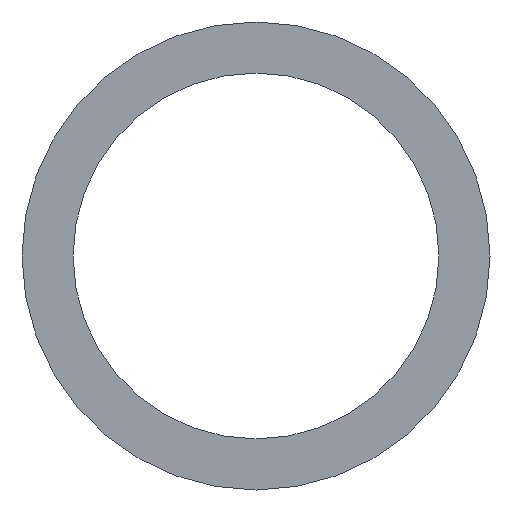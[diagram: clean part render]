
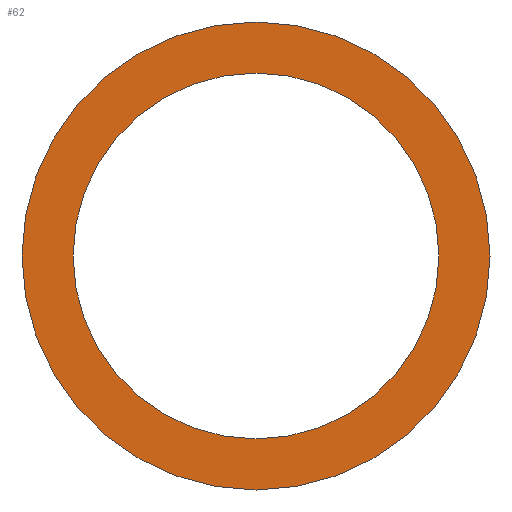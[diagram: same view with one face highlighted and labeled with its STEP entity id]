
A CAD part, front view. The second image highlights one B-rep face of the part: STEP entity #62.
In plain terms, the highlighted planar face has unit normal (0, -1, 0).
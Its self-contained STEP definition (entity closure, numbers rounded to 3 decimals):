
#20=PLANE('',#83);
#26=ORIENTED_EDGE('',*,*,#30,.T.);
#27=ORIENTED_EDGE('',*,*,#32,.F.);
#30=EDGE_CURVE('',#34,#34,#38,.T.);
#32=EDGE_CURVE('',#36,#36,#40,.T.);
#34=VERTEX_POINT('',#106);
#36=VERTEX_POINT('',#111);
#38=CIRCLE('',#78,397.5);
#40=CIRCLE('',#81,508.5);
#46=EDGE_LOOP('',(#26));
#47=EDGE_LOOP('',(#27));
#54=FACE_BOUND('',#46,.T.);
#55=FACE_BOUND('',#47,.T.);
#62=ADVANCED_FACE('',(#54,#55),#20,.F.);
#78=AXIS2_PLACEMENT_3D('',#105,#89,#90);
#81=AXIS2_PLACEMENT_3D('',#110,#95,#96);
#83=AXIS2_PLACEMENT_3D('',#114,#99,#100);
#89=DIRECTION('',(0.,1.,0.));
#90=DIRECTION('',(1.,0.,0.));
#95=DIRECTION('',(0.,1.,0.));
#96=DIRECTION('',(1.,0.,0.));
#99=DIRECTION('',(0.,1.,0.));
#100=DIRECTION('',(0.,0.,1.));
#105=CARTESIAN_POINT('',(0.,-1.5,0.));
#106=CARTESIAN_POINT('',(397.5,-1.5,0.));
#110=CARTESIAN_POINT('',(0.,-1.5,0.));
#111=CARTESIAN_POINT('',(508.5,-1.5,0.));
#114=CARTESIAN_POINT('',(0.,-1.5,0.));
